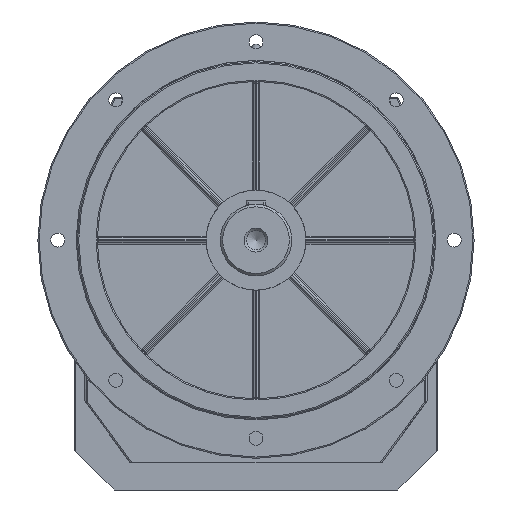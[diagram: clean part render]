
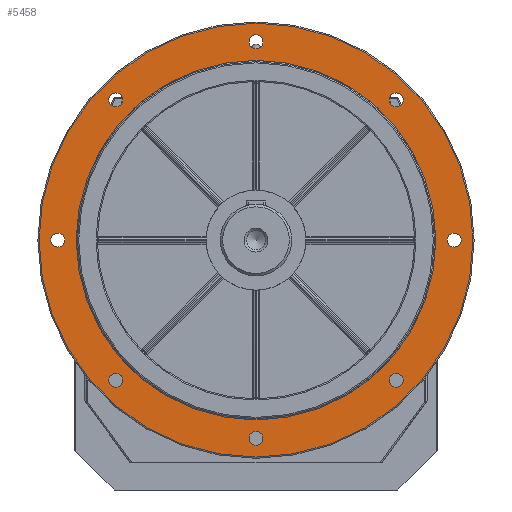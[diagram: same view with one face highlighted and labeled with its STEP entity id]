
A CAD part, front view. The second image highlights one B-rep face of the part: STEP entity #5458.
In plain terms, the highlighted planar face has unit normal (0, -1, 0).
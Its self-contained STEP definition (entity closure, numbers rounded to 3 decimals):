
#5336=CARTESIAN_POINT('',(0.0,-255.0,588.5));
#5337=VERTEX_POINT('',#5336);
#5338=CARTESIAN_POINT('',(0.0,-255.0,315.));
#5339=DIRECTION('',(0.0,1.0,0.0));
#5340=DIRECTION('',(0.0,0.0,-1.0));
#5341=AXIS2_PLACEMENT_3D('',#5338,#5339,#5340);
#5342=CIRCLE('',#5341,273.5);
#5343=EDGE_CURVE('',#5337,#5337,#5342,.T.);
#5351=CARTESIAN_POINT('',(0.0,-255.0,565.0));
#5352=DIRECTION('',(0.0,-1.0,0.0));
#5353=DIRECTION('',(0.0,0.0,-1.0));
#5354=AXIS2_PLACEMENT_3D('',#5351,#5352,#5353);
#5355=PLANE('',#5354);
#5356=ORIENTED_EDGE('',*,*,#5343,.F.);
#5357=EDGE_LOOP('',(#5356));
#5358=FACE_OUTER_BOUND('',#5357,.T.);
#5359=CARTESIAN_POINT('',(0.,-255.0,541.5));
#5360=VERTEX_POINT('',#5359);
#5361=CARTESIAN_POINT('',(0.0,-255.0,315.));
#5362=DIRECTION('',(0.0,-1.0,0.0));
#5363=DIRECTION('',(0.0,0.0,-1.0));
#5364=AXIS2_PLACEMENT_3D('',#5361,#5362,#5363);
#5365=CIRCLE('',#5364,226.5);
#5366=EDGE_CURVE('',#5360,#5360,#5365,.T.);
#5367=ORIENTED_EDGE('',*,*,#5366,.F.);
#5368=EDGE_LOOP('',(#5367));
#5369=FACE_BOUND('',#5368,.T.);
#5370=CARTESIAN_POINT('',(-241.25,-255.0,315.));
#5371=VERTEX_POINT('',#5370);
#5372=CARTESIAN_POINT('',(-250.,-255.0,315.));
#5373=DIRECTION('',(0.0,1.0,0.0));
#5374=DIRECTION('',(1.0,0.0,0.0));
#5375=AXIS2_PLACEMENT_3D('',#5372,#5373,#5374);
#5376=CIRCLE('',#5375,8.75);
#5377=EDGE_CURVE('',#5371,#5371,#5376,.T.);
#5378=ORIENTED_EDGE('',*,*,#5377,.T.);
#5379=EDGE_LOOP('',(#5378));
#5380=FACE_BOUND('',#5379,.T.);
#5381=CARTESIAN_POINT('',(-168.027,-255.0,491.777));
#5382=VERTEX_POINT('',#5381);
#5383=CARTESIAN_POINT('',(-176.777,-255.0,491.777));
#5384=DIRECTION('',(0.0,1.0,0.0));
#5385=DIRECTION('',(1.0,0.0,0.0));
#5386=AXIS2_PLACEMENT_3D('',#5383,#5384,#5385);
#5387=CIRCLE('',#5386,8.75);
#5388=EDGE_CURVE('',#5382,#5382,#5387,.T.);
#5389=ORIENTED_EDGE('',*,*,#5388,.T.);
#5390=EDGE_LOOP('',(#5389));
#5391=FACE_BOUND('',#5390,.T.);
#5392=CARTESIAN_POINT('',(8.75,-255.0,565.0));
#5393=VERTEX_POINT('',#5392);
#5394=CARTESIAN_POINT('',(0.0,-255.0,565.0));
#5395=DIRECTION('',(0.0,1.0,0.0));
#5396=DIRECTION('',(1.0,0.0,0.0));
#5397=AXIS2_PLACEMENT_3D('',#5394,#5395,#5396);
#5398=CIRCLE('',#5397,8.75);
#5399=EDGE_CURVE('',#5393,#5393,#5398,.T.);
#5400=ORIENTED_EDGE('',*,*,#5399,.T.);
#5401=EDGE_LOOP('',(#5400));
#5402=FACE_BOUND('',#5401,.T.);
#5403=CARTESIAN_POINT('',(185.527,-255.0,491.777));
#5404=VERTEX_POINT('',#5403);
#5405=CARTESIAN_POINT('',(176.777,-255.0,491.777));
#5406=DIRECTION('',(0.0,1.0,0.0));
#5407=DIRECTION('',(1.0,0.0,0.0));
#5408=AXIS2_PLACEMENT_3D('',#5405,#5406,#5407);
#5409=CIRCLE('',#5408,8.75);
#5410=EDGE_CURVE('',#5404,#5404,#5409,.T.);
#5411=ORIENTED_EDGE('',*,*,#5410,.T.);
#5412=EDGE_LOOP('',(#5411));
#5413=FACE_BOUND('',#5412,.T.);
#5414=CARTESIAN_POINT('',(258.75,-255.0,315.));
#5415=VERTEX_POINT('',#5414);
#5416=CARTESIAN_POINT('',(250.,-255.0,315.));
#5417=DIRECTION('',(0.0,1.0,0.0));
#5418=DIRECTION('',(1.0,0.0,0.0));
#5419=AXIS2_PLACEMENT_3D('',#5416,#5417,#5418);
#5420=CIRCLE('',#5419,8.75);
#5421=EDGE_CURVE('',#5415,#5415,#5420,.T.);
#5422=ORIENTED_EDGE('',*,*,#5421,.T.);
#5423=EDGE_LOOP('',(#5422));
#5424=FACE_BOUND('',#5423,.T.);
#5425=CARTESIAN_POINT('',(185.527,-255.0,138.223));
#5426=VERTEX_POINT('',#5425);
#5427=CARTESIAN_POINT('',(176.777,-255.0,138.223));
#5428=DIRECTION('',(0.0,1.0,0.0));
#5429=DIRECTION('',(1.0,0.0,0.0));
#5430=AXIS2_PLACEMENT_3D('',#5427,#5428,#5429);
#5431=CIRCLE('',#5430,8.75);
#5432=EDGE_CURVE('',#5426,#5426,#5431,.T.);
#5433=ORIENTED_EDGE('',*,*,#5432,.T.);
#5434=EDGE_LOOP('',(#5433));
#5435=FACE_BOUND('',#5434,.T.);
#5436=CARTESIAN_POINT('',(8.75,-255.0,65.));
#5437=VERTEX_POINT('',#5436);
#5438=CARTESIAN_POINT('',(0.0,-255.0,65.));
#5439=DIRECTION('',(0.0,1.0,0.0));
#5440=DIRECTION('',(1.0,0.0,0.0));
#5441=AXIS2_PLACEMENT_3D('',#5438,#5439,#5440);
#5442=CIRCLE('',#5441,8.75);
#5443=EDGE_CURVE('',#5437,#5437,#5442,.T.);
#5444=ORIENTED_EDGE('',*,*,#5443,.T.);
#5445=EDGE_LOOP('',(#5444));
#5446=FACE_BOUND('',#5445,.T.);
#5447=CARTESIAN_POINT('',(-168.027,-255.0,138.223));
#5448=VERTEX_POINT('',#5447);
#5449=CARTESIAN_POINT('',(-176.777,-255.0,138.223));
#5450=DIRECTION('',(0.0,1.0,0.0));
#5451=DIRECTION('',(1.0,0.0,0.0));
#5452=AXIS2_PLACEMENT_3D('',#5449,#5450,#5451);
#5453=CIRCLE('',#5452,8.75);
#5454=EDGE_CURVE('',#5448,#5448,#5453,.T.);
#5455=ORIENTED_EDGE('',*,*,#5454,.T.);
#5456=EDGE_LOOP('',(#5455));
#5457=FACE_BOUND('',#5456,.T.);
#5458=ADVANCED_FACE('',(#5358,#5369,#5380,#5391,#5402,#5413,#5424,#5435,#5446,#5457),#5355,.T.);
